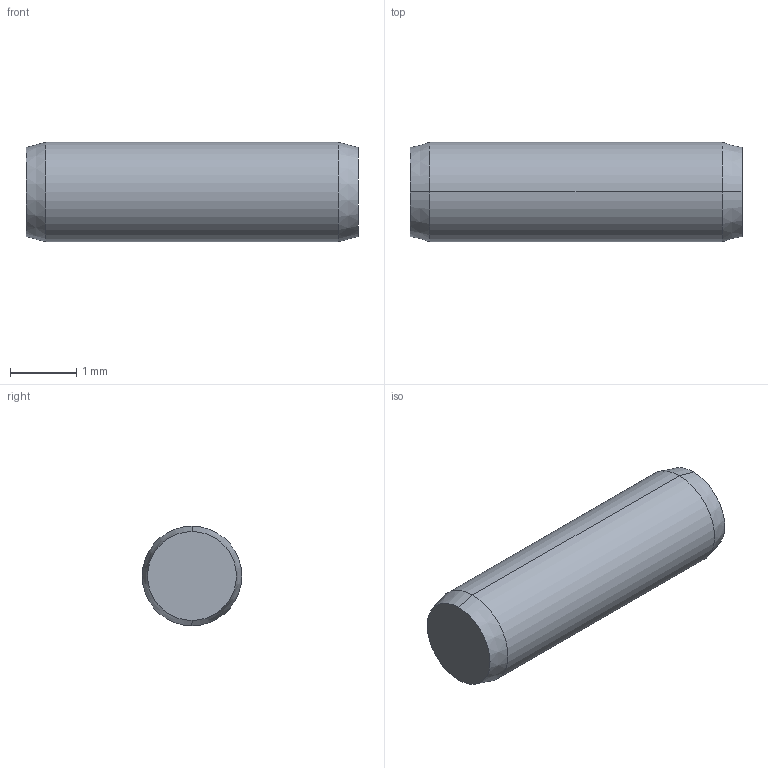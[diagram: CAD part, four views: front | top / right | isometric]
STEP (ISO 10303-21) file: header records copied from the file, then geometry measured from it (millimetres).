
FILE_DESCRIPTION (( 'STEP AP203' ), '1' );
FILE_NAME ('P1206.015-005.step', '2017-06-14T07:52:23', ( 'User' ), ( '' ), 'SwSTEP 2.0', 'SolidWorks 2009', '' );
FILE_SCHEMA (( 'CONFIG_CONTROL_DESIGN' ));
Length unit declared in the file: millimetre
Products named in the file (1): P1206.015-005
Bounding box: 5 x 1.5 x 1.5 mm (x, y, z)
Volume: 8.7 mm3; surface area: 26.3 mm2
Topology: 1 solids, 1 shells, 8 faces, 14 edges, 8 vertices
Faces by surface type: cone 4, cylinder 2, plane 2
Entity records: 271 total; most frequent: DIRECTION 40, CARTESIAN_POINT 31, ORIENTED_EDGE 28, AXIS2_PLACEMENT_3D 17, EDGE_CURVE 14, EDGE_LOOP 8, ADVANCED_FACE 8, VERTEX_POINT 8
